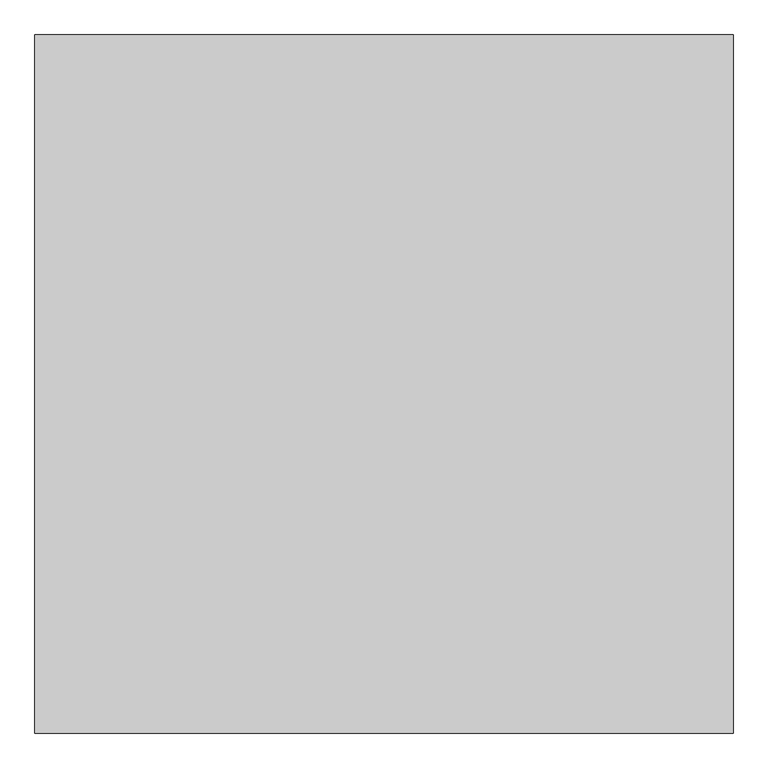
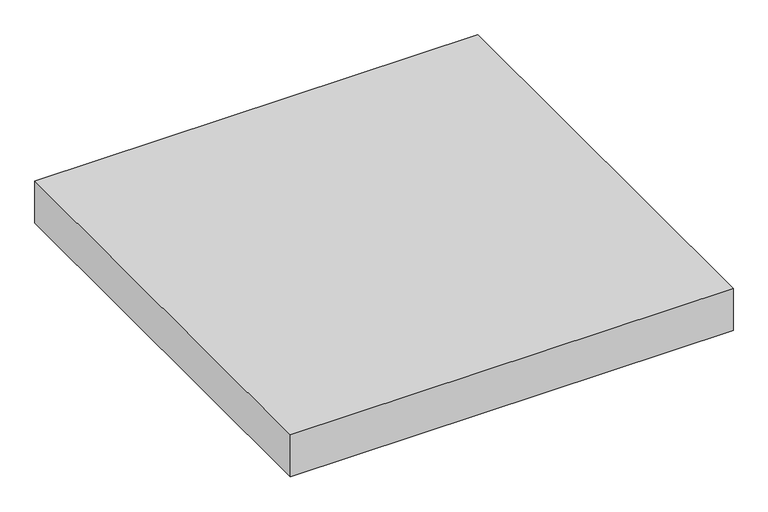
"""IFC4 building model written with IfcOpenShell, lengths in millimetres: proxy geometry, Modelos genéricos 5 : Modelos genéricos 1."""

import ifcopenshell
import ifcopenshell.guid

model = None  # the IFC model being written
_history = None  # IfcOwnerHistory: only IFC2X3 demands one
_inside = {}  # id of a spatial element -> (the spatial element, [elements in it])
_under = {}  # id of a project, library or spatial element -> (it, [spatial elements below it])
_declared = {}  # id of a project -> (the project, [libraries it declares])
_typed = {}  # id of a type object -> (the type object, [elements of that type])
_made_of = {}  # id of a material, layer set ... -> (it, [elements and type objects made of it])


def new_model(schema):
    """Start an empty IFC model of exactly this schema.

    Asked for "IFC4X3", IfcOpenShell would pick the latest addendum, in which some entities
    have other attributes; the version numbers below select the first issue.
    IFC2X3 requires an IfcOwnerHistory on every rooted entity: one is made here for all.
    """
    global model, _history
    if schema == "IFC4X3":
        model = ifcopenshell.file(schema_version=(4, 3, 0, 0))
    else:
        model = ifcopenshell.file(schema=schema)
    _inside.clear()
    _under.clear()
    _declared.clear()
    _typed.clear()
    _made_of.clear()
    _history = None
    if model.schema == "IFC2X3":
        org = make("IfcOrganization", Name="unknown")
        user = make(
            "IfcPersonAndOrganization",
            ThePerson=make("IfcPerson", FamilyName="unknown"),
            TheOrganization=org,
        )
        app = make(
            "IfcApplication",
            ApplicationDeveloper=org,
            Version="unknown",
            ApplicationFullName="unknown",
            ApplicationIdentifier="unknown",
        )
        _history = make(
            "IfcOwnerHistory",
            OwningUser=user,
            OwningApplication=app,
            ChangeAction="ADDED",
            CreationDate=0,
        )
    return model


def make(cls, **values):
    """One entity of the class cls with the attributes given. An attribute that is None is left unset."""
    return model.create_entity(
        cls, **{name: value for name, value in values.items() if value is not None}
    )


def rooted(cls, **values):
    """An entity with a GlobalId (a new one), such as an element, a storey or a relation."""
    return make(cls, GlobalId=ifcopenshell.guid.new(), OwnerHistory=_history, **values)


def si_unit(unit_type, name, prefix=None):
    """IfcSIUnit, for example si_unit("LENGTHUNIT", "METRE", prefix="MILLI")."""
    return make("IfcSIUnit", UnitType=unit_type, Prefix=prefix, Name=name)


def assignment(units):
    """IfcUnitAssignment: the units of a project."""
    return None if units is None else make("IfcUnitAssignment", Units=units)


def point(xyz):
    """IfcCartesianPoint."""
    return None if xyz is None else make("IfcCartesianPoint", Coordinates=xyz)


def direction(xyz):
    """IfcDirection."""
    return None if xyz is None else make("IfcDirection", DirectionRatios=xyz)


def frame(location, z_axis=None, x_axis=None):
    """IfcAxis2Placement3D, a coordinate frame: its origin and axes. An axis left out is left unset."""
    return make(
        "IfcAxis2Placement3D",
        Location=point(location),
        Axis=direction(z_axis),
        RefDirection=direction(x_axis),
    )


def origin():
    """The frame at (0, 0, 0) with its axes left unset."""
    return frame((0.0, 0.0, 0.0))


def origin_with_axes():
    """The frame at (0, 0, 0) with the z axis (0, 0, 1) and the x axis (1, 0, 0) written out."""
    return frame((0.0, 0.0, 0.0), z_axis=(0.0, 0.0, 1.0), x_axis=(1.0, 0.0, 0.0))


def place(relative_to, where):
    """IfcLocalPlacement: puts the frame where relative to a parent placement (None: the world)."""
    return make(
        "IfcLocalPlacement", PlacementRelTo=relative_to, RelativePlacement=where
    )


def context(
    kind, dimensions, precision=None, world=None, true_north=None, identifier=None
):
    """IfcGeometricRepresentationContext, for example the 3D "Model" context."""
    return make(
        "IfcGeometricRepresentationContext",
        ContextIdentifier=identifier,
        ContextType=kind,
        CoordinateSpaceDimension=dimensions,
        Precision=precision,
        WorldCoordinateSystem=world,
        TrueNorth=true_north,
    )


def project(units=None, contexts=None):
    """IfcProject with its units and contexts."""
    return rooted(
        "IfcProject",
        Name="project",
        RepresentationContexts=contexts,
        UnitsInContext=assignment(units),
    )


def spatial(cls, under=None, at=None, **own):
    """A site, building, storey or space (cls), placed at a placement, below another one or the project."""
    s = rooted(cls, ObjectPlacement=at, **own)
    if under is not None:
        _under.setdefault(under.id(), (under, []))[1].append(s)
    return s


def polyline(points):
    """IfcPolyline through the points."""
    return make("IfcPolyline", Points=[point(p) for p in points])


def outline(outer, holes=None, kind="AREA"):
    """IfcArbitraryClosedProfileDef: a profile drawn as a closed curve; with holes, ...WithVoids."""
    if holes is None:
        return make("IfcArbitraryClosedProfileDef", ProfileType=kind, OuterCurve=outer)
    return make(
        "IfcArbitraryProfileDefWithVoids",
        ProfileType=kind,
        OuterCurve=outer,
        InnerCurves=holes,
    )


def extrude(swept, where, along, depth):
    """IfcExtrudedAreaSolid: the profile swept, set in the frame where, extruded along a direction by depth."""
    return make(
        "IfcExtrudedAreaSolid",
        SweptArea=swept,
        Position=where,
        ExtrudedDirection=direction(along),
        Depth=depth,
    )


def shape(context_of_items, identifier, shape_type, items):
    """IfcShapeRepresentation: the items that make up one representation, for example the "Body"."""
    return make(
        "IfcShapeRepresentation",
        ContextOfItems=context_of_items,
        RepresentationIdentifier=identifier,
        RepresentationType=shape_type,
        Items=items,
    )


def source(mapping_origin, context_of_items, identifier, shape_type, items):
    """IfcRepresentationMap: a shape defined once, which mapped items show again and again."""
    return make(
        "IfcRepresentationMap",
        MappingOrigin=mapping_origin,
        MappedRepresentation=shape(context_of_items, identifier, shape_type, items),
    )


def transform(
    local_origin,
    x_axis=None,
    y_axis=None,
    z_axis=None,
    scale=None,
    scale2=None,
    scale3=None,
    uniform=True,
):
    """IfcCartesianTransformationOperator3D, or its non-uniform kind. x_axis, y_axis, z_axis: its Axis1, 2, 3."""
    if uniform:
        return make(
            "IfcCartesianTransformationOperator3D",
            Axis1=direction(x_axis),
            Axis2=direction(y_axis),
            LocalOrigin=point(local_origin),
            Scale=scale,
            Axis3=direction(z_axis),
        )
    return make(
        "IfcCartesianTransformationOperator3DnonUniform",
        Axis1=direction(x_axis),
        Axis2=direction(y_axis),
        LocalOrigin=point(local_origin),
        Scale=scale,
        Axis3=direction(z_axis),
        Scale2=scale2,
        Scale3=scale3,
    )


def mapped(mapping_source, mapping_target):
    """IfcMappedItem: shows the shape of a source again, moved by a transform."""
    return make(
        "IfcMappedItem", MappingSource=mapping_source, MappingTarget=mapping_target
    )


def made_of(thing, what):
    """Note that an element or type object is made of a material, layer set ...; save() writes the relation."""
    if what is not None:
        _made_of.setdefault(what.id(), (what, []))[1].append(thing)
    return thing


def element(
    cls,
    number,
    at=None,
    inside=None,
    cuts=None,
    type_object=None,
    material=None,
    context=None,
    identifier="Body",
    shape_type=None,
    held_by="IfcProductDefinitionShape",
    body=None,
    shapes=None,
    **own,
):
    """One element of the class cls, such as IfcWall. Its Tag is "e" and its number.

    at: its placement. inside: the storey or other place that contains it. cuts: it is an
    opening in that element (IfcRelVoidsElement). A single representation is given by context,
    identifier, shape_type and body (its items); several are given by shapes. held_by: the class
    of the entity that holds the representations. save() writes the other relations.
    """
    e = rooted(cls, Tag="e%d" % number, ObjectPlacement=at, **own)
    if body is not None:
        shapes = [shape(context, identifier, shape_type, body)]
    if shapes is not None:
        e.Representation = make(held_by, Representations=shapes)
    if inside is not None:
        _inside.setdefault(inside.id(), (inside, []))[1].append(e)
    if cuts is not None:
        rooted(
            "IfcRelVoidsElement", RelatingBuildingElement=cuts, RelatedOpeningElement=e
        )
    if type_object is not None:
        _typed.setdefault(type_object.id(), (type_object, []))[1].append(e)
    return made_of(e, material)


def aggregate(whole, parts):
    """IfcRelAggregates: a whole, such as a stair, and the parts it consists of."""
    return rooted("IfcRelAggregates", RelatingObject=whole, RelatedObjects=parts)


def save(model, path):
    """Write the relations noted so far, then the file.

    IfcRelAggregates (storeys below a building ...), IfcRelContainedInSpatialStructure (elements
    in a storey), IfcRelDefinesByType, IfcRelAssociatesMaterial and IfcRelDeclares: one each for
    every whole, place, type object, material and project.
    """
    for whole, parts in _under.values():
        aggregate(whole, parts)
    for where, things in _inside.values():
        rooted(
            "IfcRelContainedInSpatialStructure",
            RelatedElements=things,
            RelatingStructure=where,
        )
    for kind, things in _typed.values():
        rooted("IfcRelDefinesByType", RelatedObjects=things, RelatingType=kind)
    for what, things in _made_of.values():
        rooted("IfcRelAssociatesMaterial", RelatedObjects=things, RelatingMaterial=what)
    for by, libraries in _declared.values():
        rooted("IfcRelDeclares", RelatingContext=by, RelatedDefinitions=libraries)
    model.write(path)


def generic_models_cb08545f(model_context):
    return source(origin(), model_context, "Body", "SweptSolid", [
        extrude(outline(polyline([(-14225.6026359, 1454.287186), (-14225.6026359, -45.712814), (-15725.6026359, -45.712814), (-15725.6026359, 1454.287186), (-14225.6026359, 1454.287186)])), origin_with_axes(), (0.0, 0.0, 1.0), 150.0),
    ])


if __name__ == "__main__":
    model = new_model("IFC4")
    model_context = context("Model", 3, world=origin())
    ifc_project = project(units=[si_unit("LENGTHUNIT", "METRE", prefix="MILLI")], contexts=[model_context])
    site = spatial("IfcSite", under=ifc_project)
    building = spatial("IfcBuilding", under=site)
    placement = place(None, origin())
    generic_models_shape = generic_models_cb08545f(model_context)
    element("IfcBuildingElementProxy", 1, Name="Modelos genéricos 5 : Modelos genéricos 1", ObjectType="Modelos genéricos 5 : Modelos genéricos 1", at=placement, inside=building, context=model_context, shape_type="MappedRepresentation", body=[
        mapped(generic_models_shape, transform((0.0, 0.0, 0.0), x_axis=(1.0, 0.0, 0.0), y_axis=(0.0, 1.0, 0.0), z_axis=(0.0, 0.0, 1.0))),
    ])
    save(model, "model.ifc")
